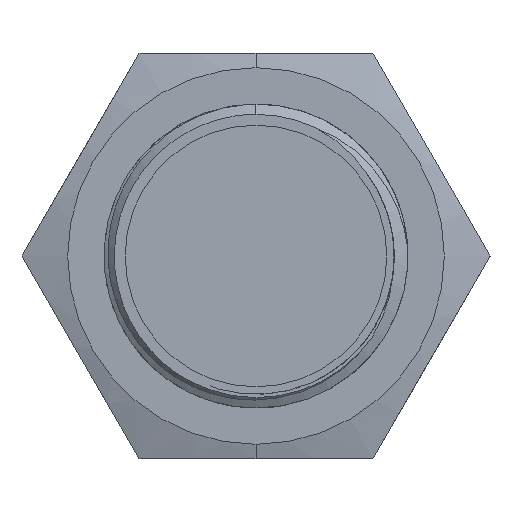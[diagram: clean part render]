
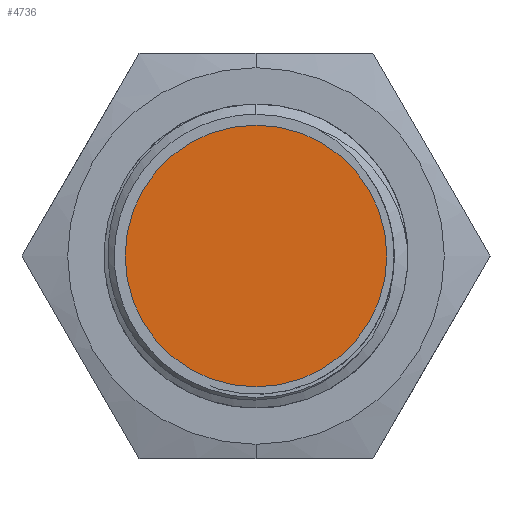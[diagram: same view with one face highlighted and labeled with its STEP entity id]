
A CAD part, left-side view. The second image highlights one B-rep face of the part: STEP entity #4736.
In plain terms, the highlighted planar face has unit normal (-1, 0, 0).
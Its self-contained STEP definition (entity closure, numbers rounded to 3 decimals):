
#119 = DIRECTION ( 'NONE',  ( 1., 0., 0. ) ) ;
#1015 = AXIS2_PLACEMENT_3D ( 'NONE', #10576, #1383, #5616 ) ;
#1383 = DIRECTION ( 'NONE',  ( 1., 0., 0. ) ) ;
#1790 = VERTEX_POINT ( 'NONE', #4268 ) ;
#1798 = FACE_OUTER_BOUND ( 'NONE', #6793, .T. ) ;
#1967 = CARTESIAN_POINT ( 'NONE',  ( -73.5, 0., 7.75 ) ) ;
#2100 = ORIENTED_EDGE ( 'NONE', *, *, #2714, .F. ) ;
#2195 = EDGE_CURVE ( 'NONE', #1790, #4822, #10344, .T. ) ;
#2714 = EDGE_CURVE ( 'NONE', #4822, #1790, #3127, .T. ) ;
#2794 = DIRECTION ( 'NONE',  ( 1., 0., 0. ) ) ;
#3127 = CIRCLE ( 'NONE', #7246, 7.75 ) ;
#3428 = DIRECTION ( 'NONE',  ( 0., 0., -1. ) ) ;
#4245 = PLANE ( 'NONE',  #7425 ) ;
#4268 = CARTESIAN_POINT ( 'NONE',  ( -73.5, 0., -7.75 ) ) ;
#4736 = ADVANCED_FACE ( 'NONE', ( #1798 ), #4245, .F. ) ;
#4822 = VERTEX_POINT ( 'NONE', #1967 ) ;
#5510 = ORIENTED_EDGE ( 'NONE', *, *, #2195, .F. ) ;
#5616 = DIRECTION ( 'NONE',  ( 0., 0., -1. ) ) ;
#5980 = CARTESIAN_POINT ( 'NONE',  ( -73.5, 0., 0. ) ) ;
#6793 = EDGE_LOOP ( 'NONE', ( #5510, #2100 ) ) ;
#7246 = AXIS2_PLACEMENT_3D ( 'NONE', #8574, #2794, #9493 ) ;
#7425 = AXIS2_PLACEMENT_3D ( 'NONE', #5980, #119, #3428 ) ;
#8574 = CARTESIAN_POINT ( 'NONE',  ( -73.5, 0., 0. ) ) ;
#9493 = DIRECTION ( 'NONE',  ( 0., 0., -1. ) ) ;
#10344 = CIRCLE ( 'NONE', #1015, 7.75 ) ;
#10576 = CARTESIAN_POINT ( 'NONE',  ( -73.5, 0., 0. ) ) ;
